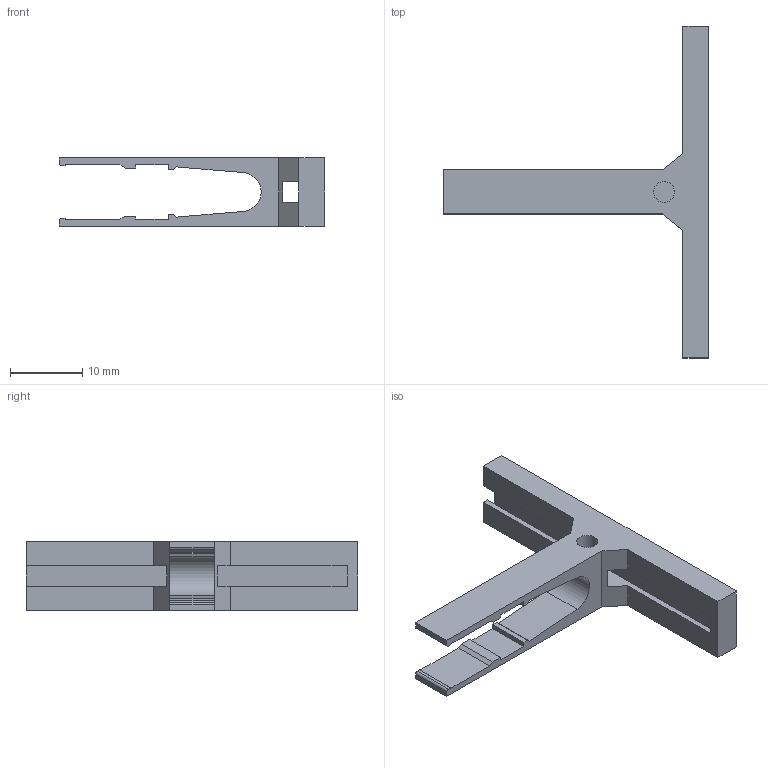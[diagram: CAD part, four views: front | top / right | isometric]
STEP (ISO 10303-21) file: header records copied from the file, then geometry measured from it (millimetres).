
FILE_DESCRIPTION( ('This file contains a STEP AP42 implementation' ,'as created by ZW3D STEP Interface translator.') ,'2;1' );
FILE_NAME( 'MLK-A.stp' ,'24 726.11 947', (''), ('ZWCAD Software Co.'), 'Version 1.0', 'ZW3D to STEP translator', '' );
FILE_SCHEMA(('AUTOMOTIVE_DESIGN { 1 0 10303 214 1 1 1 1 }'));
Length unit declared in the file: millimetre
Products named in the file (2): 0; KLM-A
Bounding box: 36.8 x 46 x 9.5 mm (x, y, z)
Volume: 1800.5 mm3; surface area: 2932 mm2
Topology: 1 solids, 1 shells, 52 faces, 154 edges, 104 vertices
Faces by surface type: plane 47, cylinder 5
Full cylindrical faces by diameter (mm): 2.9 x2
Entity records: 1810 total; most frequent: CARTESIAN_POINT 311, ORIENTED_EDGE 308, DIRECTION 274, EDGE_CURVE 154, VECTOR 140, LINE 140, VERTEX_POINT 104, AXIS2_PLACEMENT_3D 67
